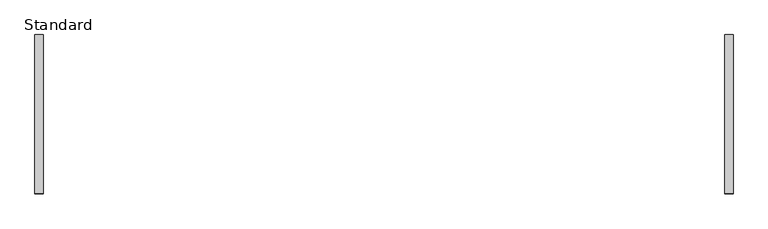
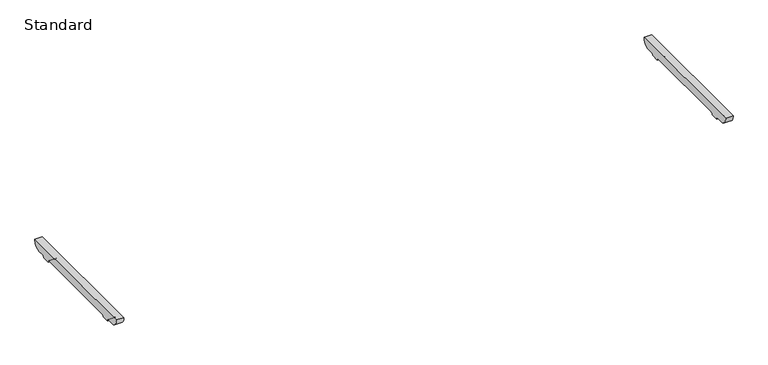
"""IFC4 building model written with IfcOpenShell, lengths in millimetres: furniture geometry, BDG_BossDesign_Tbls_AgentTables4Legs_Nested : Standard."""

import ifcopenshell
import ifcopenshell.guid

model = None  # the IFC model being written
_history = None  # IfcOwnerHistory: only IFC2X3 demands one
_inside = {}  # id of a spatial element -> (the spatial element, [elements in it])
_under = {}  # id of a project, library or spatial element -> (it, [spatial elements below it])
_declared = {}  # id of a project -> (the project, [libraries it declares])
_typed = {}  # id of a type object -> (the type object, [elements of that type])
_made_of = {}  # id of a material, layer set ... -> (it, [elements and type objects made of it])


def new_model(schema):
    """Start an empty IFC model of exactly this schema.

    Asked for "IFC4X3", IfcOpenShell would pick the latest addendum, in which some entities
    have other attributes; the version numbers below select the first issue.
    IFC2X3 requires an IfcOwnerHistory on every rooted entity: one is made here for all.
    """
    global model, _history
    if schema == "IFC4X3":
        model = ifcopenshell.file(schema_version=(4, 3, 0, 0))
    else:
        model = ifcopenshell.file(schema=schema)
    _inside.clear()
    _under.clear()
    _declared.clear()
    _typed.clear()
    _made_of.clear()
    _history = None
    if model.schema == "IFC2X3":
        org = make("IfcOrganization", Name="unknown")
        user = make(
            "IfcPersonAndOrganization",
            ThePerson=make("IfcPerson", FamilyName="unknown"),
            TheOrganization=org,
        )
        app = make(
            "IfcApplication",
            ApplicationDeveloper=org,
            Version="unknown",
            ApplicationFullName="unknown",
            ApplicationIdentifier="unknown",
        )
        _history = make(
            "IfcOwnerHistory",
            OwningUser=user,
            OwningApplication=app,
            ChangeAction="ADDED",
            CreationDate=0,
        )
    return model


def make(cls, **values):
    """One entity of the class cls with the attributes given. An attribute that is None is left unset."""
    return model.create_entity(
        cls, **{name: value for name, value in values.items() if value is not None}
    )


def rooted(cls, **values):
    """An entity with a GlobalId (a new one), such as an element, a storey or a relation."""
    return make(cls, GlobalId=ifcopenshell.guid.new(), OwnerHistory=_history, **values)


def si_unit(unit_type, name, prefix=None):
    """IfcSIUnit, for example si_unit("LENGTHUNIT", "METRE", prefix="MILLI")."""
    return make("IfcSIUnit", UnitType=unit_type, Prefix=prefix, Name=name)


def assignment(units):
    """IfcUnitAssignment: the units of a project."""
    return None if units is None else make("IfcUnitAssignment", Units=units)


def point(xyz):
    """IfcCartesianPoint."""
    return None if xyz is None else make("IfcCartesianPoint", Coordinates=xyz)


def direction(xyz):
    """IfcDirection."""
    return None if xyz is None else make("IfcDirection", DirectionRatios=xyz)


def frame(location, z_axis=None, x_axis=None):
    """IfcAxis2Placement3D, a coordinate frame: its origin and axes. An axis left out is left unset."""
    return make(
        "IfcAxis2Placement3D",
        Location=point(location),
        Axis=direction(z_axis),
        RefDirection=direction(x_axis),
    )


def frame_2d(location, x_axis=None):
    """IfcAxis2Placement2D, a coordinate frame in the plane: its origin and x axis."""
    return make(
        "IfcAxis2Placement2D", Location=point(location), RefDirection=direction(x_axis)
    )


def origin():
    """The frame at (0, 0, 0) with its axes left unset."""
    return frame((0.0, 0.0, 0.0))


def place(relative_to, where):
    """IfcLocalPlacement: puts the frame where relative to a parent placement (None: the world)."""
    return make(
        "IfcLocalPlacement", PlacementRelTo=relative_to, RelativePlacement=where
    )


def context(
    kind, dimensions, precision=None, world=None, true_north=None, identifier=None
):
    """IfcGeometricRepresentationContext, for example the 3D "Model" context."""
    return make(
        "IfcGeometricRepresentationContext",
        ContextIdentifier=identifier,
        ContextType=kind,
        CoordinateSpaceDimension=dimensions,
        Precision=precision,
        WorldCoordinateSystem=world,
        TrueNorth=true_north,
    )


def project(units=None, contexts=None):
    """IfcProject with its units and contexts."""
    return rooted(
        "IfcProject",
        Name="project",
        RepresentationContexts=contexts,
        UnitsInContext=assignment(units),
    )


def spatial(cls, under=None, at=None, **own):
    """A site, building, storey or space (cls), placed at a placement, below another one or the project."""
    s = rooted(cls, ObjectPlacement=at, **own)
    if under is not None:
        _under.setdefault(under.id(), (under, []))[1].append(s)
    return s


def polyline(points):
    """IfcPolyline through the points."""
    return make("IfcPolyline", Points=[point(p) for p in points])


def circle_curve(where, radius):
    """IfcCircle in the frame where."""
    return make("IfcCircle", Position=where, Radius=radius)


def trimmed(basis, trim1, trim2, sense, master):
    """IfcTrimmedCurve: the piece of a basis curve between two trims."""
    return make(
        "IfcTrimmedCurve",
        BasisCurve=basis,
        Trim1=trim1,
        Trim2=trim2,
        SenseAgreement=sense,
        MasterRepresentation=master,
    )


def segment(curve, same_sense, transition):
    """IfcCompositeCurveSegment."""
    return make(
        "IfcCompositeCurveSegment",
        Transition=transition,
        SameSense=same_sense,
        ParentCurve=curve,
    )


def composite_curve(segments, self_intersect=None):
    """IfcCompositeCurve: segments joined end to end."""
    return make("IfcCompositeCurve", Segments=segments, SelfIntersect=self_intersect)


def outline(outer, holes=None, kind="AREA"):
    """IfcArbitraryClosedProfileDef: a profile drawn as a closed curve; with holes, ...WithVoids."""
    if holes is None:
        return make("IfcArbitraryClosedProfileDef", ProfileType=kind, OuterCurve=outer)
    return make(
        "IfcArbitraryProfileDefWithVoids",
        ProfileType=kind,
        OuterCurve=outer,
        InnerCurves=holes,
    )


def extrude(swept, where, along, depth):
    """IfcExtrudedAreaSolid: the profile swept, set in the frame where, extruded along a direction by depth."""
    return make(
        "IfcExtrudedAreaSolid",
        SweptArea=swept,
        Position=where,
        ExtrudedDirection=direction(along),
        Depth=depth,
    )


def shape(context_of_items, identifier, shape_type, items):
    """IfcShapeRepresentation: the items that make up one representation, for example the "Body"."""
    return make(
        "IfcShapeRepresentation",
        ContextOfItems=context_of_items,
        RepresentationIdentifier=identifier,
        RepresentationType=shape_type,
        Items=items,
    )


def source(mapping_origin, context_of_items, identifier, shape_type, items):
    """IfcRepresentationMap: a shape defined once, which mapped items show again and again."""
    return make(
        "IfcRepresentationMap",
        MappingOrigin=mapping_origin,
        MappedRepresentation=shape(context_of_items, identifier, shape_type, items),
    )


def transform(
    local_origin,
    x_axis=None,
    y_axis=None,
    z_axis=None,
    scale=None,
    scale2=None,
    scale3=None,
    uniform=True,
):
    """IfcCartesianTransformationOperator3D, or its non-uniform kind. x_axis, y_axis, z_axis: its Axis1, 2, 3."""
    if uniform:
        return make(
            "IfcCartesianTransformationOperator3D",
            Axis1=direction(x_axis),
            Axis2=direction(y_axis),
            LocalOrigin=point(local_origin),
            Scale=scale,
            Axis3=direction(z_axis),
        )
    return make(
        "IfcCartesianTransformationOperator3DnonUniform",
        Axis1=direction(x_axis),
        Axis2=direction(y_axis),
        LocalOrigin=point(local_origin),
        Scale=scale,
        Axis3=direction(z_axis),
        Scale2=scale2,
        Scale3=scale3,
    )


def mapped(mapping_source, mapping_target):
    """IfcMappedItem: shows the shape of a source again, moved by a transform."""
    return make(
        "IfcMappedItem", MappingSource=mapping_source, MappingTarget=mapping_target
    )


def made_of(thing, what):
    """Note that an element or type object is made of a material, layer set ...; save() writes the relation."""
    if what is not None:
        _made_of.setdefault(what.id(), (what, []))[1].append(thing)
    return thing


def element(
    cls,
    number,
    at=None,
    inside=None,
    cuts=None,
    type_object=None,
    material=None,
    context=None,
    identifier="Body",
    shape_type=None,
    held_by="IfcProductDefinitionShape",
    body=None,
    shapes=None,
    **own,
):
    """One element of the class cls, such as IfcWall. Its Tag is "e" and its number.

    at: its placement. inside: the storey or other place that contains it. cuts: it is an
    opening in that element (IfcRelVoidsElement). A single representation is given by context,
    identifier, shape_type and body (its items); several are given by shapes. held_by: the class
    of the entity that holds the representations. save() writes the other relations.
    """
    e = rooted(cls, Tag="e%d" % number, ObjectPlacement=at, **own)
    if body is not None:
        shapes = [shape(context, identifier, shape_type, body)]
    if shapes is not None:
        e.Representation = make(held_by, Representations=shapes)
    if inside is not None:
        _inside.setdefault(inside.id(), (inside, []))[1].append(e)
    if cuts is not None:
        rooted(
            "IfcRelVoidsElement", RelatingBuildingElement=cuts, RelatedOpeningElement=e
        )
    if type_object is not None:
        _typed.setdefault(type_object.id(), (type_object, []))[1].append(e)
    return made_of(e, material)


def aggregate(whole, parts):
    """IfcRelAggregates: a whole, such as a stair, and the parts it consists of."""
    return rooted("IfcRelAggregates", RelatingObject=whole, RelatedObjects=parts)


def save(model, path):
    """Write the relations noted so far, then the file.

    IfcRelAggregates (storeys below a building ...), IfcRelContainedInSpatialStructure (elements
    in a storey), IfcRelDefinesByType, IfcRelAssociatesMaterial and IfcRelDeclares: one each for
    every whole, place, type object, material and project.
    """
    for whole, parts in _under.values():
        aggregate(whole, parts)
    for where, things in _inside.values():
        rooted(
            "IfcRelContainedInSpatialStructure",
            RelatedElements=things,
            RelatingStructure=where,
        )
    for kind, things in _typed.values():
        rooted("IfcRelDefinesByType", RelatedObjects=things, RelatingType=kind)
    for what, things in _made_of.values():
        rooted("IfcRelAssociatesMaterial", RelatedObjects=things, RelatingMaterial=what)
    for by, libraries in _declared.values():
        rooted("IfcRelDeclares", RelatingContext=by, RelatedDefinitions=libraries)
    model.write(path)


def standard_e8bf10b1(model_context):
    return source(origin(), model_context, "Body", "SweptSolid", [
        extrude(outline(composite_curve([segment(polyline([(380.5450184, 672.0), (342.7000122, 672.0)]), True, "CONTINUOUS"), segment(trimmed(circle_curve(frame_2d((342.7000122, 660.0)), 12.0), [point((342.7000122, 672.0))], [point((330.7000122, 660.0))], True, "CARTESIAN"), True, "CONTINUOUS"), segment(polyline([(330.7000122, 660.0), (285.7000122, 660.0)]), True, "CONTINUOUS"), segment(trimmed(circle_curve(frame_2d((273.7000122, 660.0)), 12.0), [point((285.7000122, 660.0))], [point((273.7000122, 672.0))], True, "CARTESIAN"), True, "CONTINUOUS"), segment(polyline([(273.7000122, 672.0), (-273.7000122, 672.0)]), True, "CONTINUOUS"), segment(trimmed(circle_curve(frame_2d((-273.7000122, 660.0)), 12.0), [point((-273.7000122, 672.0))], [point((-285.7000122, 660.0))], True, "CARTESIAN"), True, "CONTINUOUS"), segment(polyline([(-285.7000122, 660.0), (-330.7000122, 660.0)]), True, "CONTINUOUS"), segment(trimmed(circle_curve(frame_2d((-342.7000122, 660.0)), 12.0), [point((-330.7000122, 660.0))], [point((-342.7000122, 672.0))], True, "CARTESIAN"), True, "CONTINUOUS"), segment(polyline([(-342.7000122, 672.0), (-380.5450184, 672.0)]), True, "CONTINUOUS"), segment(trimmed(circle_curve(frame_2d((-378.2220439, 716.5514119)), 44.6119324), [point((-380.5450184, 672.0))], [point((-422.5, 722.0))], False, "CARTESIAN"), True, "CONTINUOUS"), segment(polyline([(-422.5, 722.0), (422.5, 722.0)]), True, "CONTINUOUS"), segment(trimmed(circle_curve(frame_2d((378.2220439, 716.5514119)), 44.6119324), [point((422.5, 722.0))], [point((380.5450184, 672.0))], False, "CARTESIAN"), True, "CONTINUOUS")], self_intersect=False)), frame((1805.0, 0.0, 0.0), z_axis=(1.0, 0.0, 0.0), x_axis=(0.0, 1.0, 0.0)), (0.0, 0.0, 1.0), 45.0),
        extrude(outline(composite_curve([segment(polyline([(380.5450184, 672.0), (342.7000122, 672.0)]), True, "CONTINUOUS"), segment(trimmed(circle_curve(frame_2d((342.7000122, 660.0)), 12.0), [point((342.7000122, 672.0))], [point((330.7000122, 660.0))], True, "CARTESIAN"), True, "CONTINUOUS"), segment(polyline([(330.7000122, 660.0), (285.7000122, 660.0)]), True, "CONTINUOUS"), segment(trimmed(circle_curve(frame_2d((273.7000122, 660.0)), 12.0), [point((285.7000122, 660.0))], [point((273.7000122, 672.0))], True, "CARTESIAN"), True, "CONTINUOUS"), segment(polyline([(273.7000122, 672.0), (-273.7000122, 672.0)]), True, "CONTINUOUS"), segment(trimmed(circle_curve(frame_2d((-273.7000122, 660.0)), 12.0), [point((-273.7000122, 672.0))], [point((-285.7000122, 660.0))], True, "CARTESIAN"), True, "CONTINUOUS"), segment(polyline([(-285.7000122, 660.0), (-330.7000122, 660.0)]), True, "CONTINUOUS"), segment(trimmed(circle_curve(frame_2d((-342.7000122, 660.0)), 12.0), [point((-330.7000122, 660.0))], [point((-342.7000122, 672.0))], True, "CARTESIAN"), True, "CONTINUOUS"), segment(polyline([(-342.7000122, 672.0), (-380.5450184, 672.0)]), True, "CONTINUOUS"), segment(trimmed(circle_curve(frame_2d((-378.2220439, 716.5514119)), 44.6119324), [point((-380.5450184, 672.0))], [point((-422.5, 722.0))], False, "CARTESIAN"), True, "CONTINUOUS"), segment(polyline([(-422.5, 722.0), (422.5, 722.0)]), True, "CONTINUOUS"), segment(trimmed(circle_curve(frame_2d((378.2220439, 716.5514119)), 44.6119324), [point((422.5, 722.0))], [point((380.5450184, 672.0))], False, "CARTESIAN"), True, "CONTINUOUS")], self_intersect=False)), frame((-1850.0, 0.0, 0.0), z_axis=(1.0, 0.0, 0.0), x_axis=(0.0, 1.0, 0.0)), (0.0, 0.0, 1.0), 45.0),
    ])


if __name__ == "__main__":
    model = new_model("IFC4")
    model_context = context("Model", 3, world=origin())
    ifc_project = project(units=[si_unit("LENGTHUNIT", "METRE", prefix="MILLI")], contexts=[model_context])
    site = spatial("IfcSite", under=ifc_project)
    building = spatial("IfcBuilding", under=site)
    placement = place(None, origin())
    standard_shape = standard_e8bf10b1(model_context)
    element("IfcFurniture", 1, ObjectType="BDG_BossDesign_Tbls_AgentTables4Legs_Nested : Standard", at=placement, inside=building, context=model_context, shape_type="MappedRepresentation", body=[
        mapped(standard_shape, transform((0.0, 0.0, 0.0), x_axis=(1.0, 0.0, 0.0), y_axis=(0.0, 1.0, 0.0), z_axis=(0.0, 0.0, 1.0))),
    ])
    save(model, "model.ifc")
